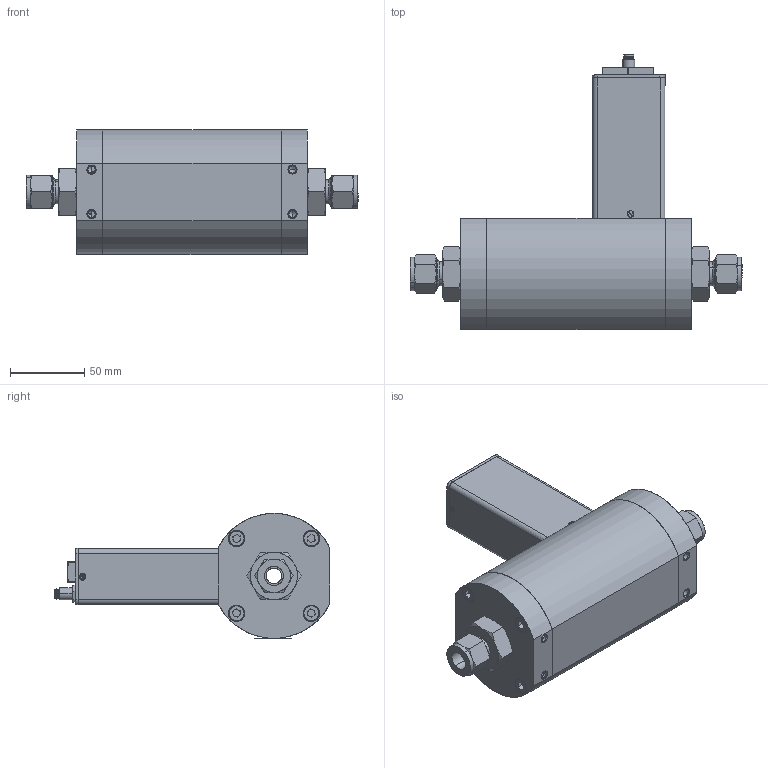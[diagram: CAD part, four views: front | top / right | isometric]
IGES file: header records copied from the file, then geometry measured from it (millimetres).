
Start section: SolidWorks IGES file using analytic representation for surfaces
Global section: file name: G:\Engineering\CAD MODELS FOR SALES\CAD MODEL STORAGE\SLA\SLA5863\CUSTOMER FILES\IGES\SLA5863-7-2D-1-A-REVB.IGS; native system: SolidWorks 2023; preprocessor: SolidWorks 2023; author: CFehr; date: 240820.141555; units: inch
Bounding box: 223.07 x 184.93 x 84.17 mm (x, y, z)
Surface area: 167628.1 mm2 (no closed solid volume)
Topology: 0 solids, 0 shells, 1915 faces, 18451 edges, 18404 vertices
Faces by surface type: bspline 1298, revolution 617
